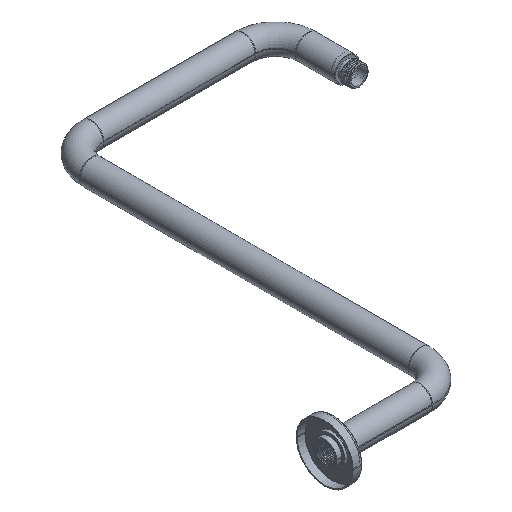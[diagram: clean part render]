
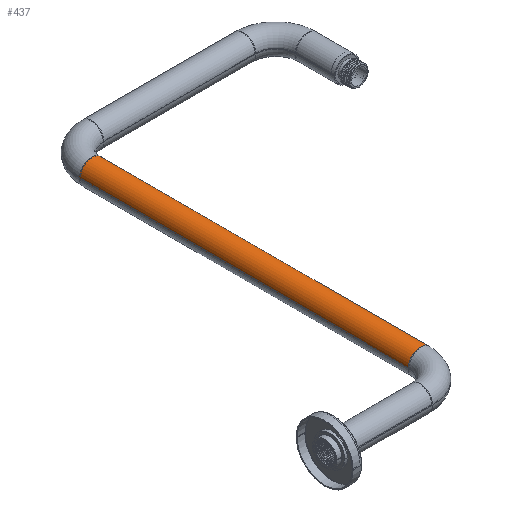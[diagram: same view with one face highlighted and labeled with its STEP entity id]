
A CAD part, isometric view. The second image highlights one B-rep face of the part: STEP entity #437.
In plain terms, the highlighted cylindrical face has radius 12.5 mm (diameter 25 mm), a partial arc.
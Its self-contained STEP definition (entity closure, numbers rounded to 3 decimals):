
#49=CARTESIAN_POINT('',(160.38,32.5,0.));
#50=DIRECTION('',(0.,1.,0.));
#51=DIRECTION('',(-1.,0.,0.));
#52=AXIS2_PLACEMENT_3D('',#49,#50,#51);
#54=DIRECTION('',(0.,1.,0.));
#55=VECTOR('',#54,335.);
#56=CARTESIAN_POINT('',(147.88,32.5,0.));
#57=LINE('',#56,#55);
#63=DIRECTION('',(0.,1.,0.));
#64=VECTOR('',#63,335.);
#65=CARTESIAN_POINT('',(172.88,32.5,0.));
#66=LINE('',#65,#64);
#77=CARTESIAN_POINT('',(160.38,367.5,0.));
#78=DIRECTION('',(0.,1.,0.));
#79=DIRECTION('',(-1.,0.,0.));
#80=AXIS2_PLACEMENT_3D('',#77,#78,#79);
#293=CARTESIAN_POINT('',(147.88,32.5,0.));
#294=CARTESIAN_POINT('',(172.88,32.5,0.));
#295=VERTEX_POINT('',#293);
#296=VERTEX_POINT('',#294);
#297=CARTESIAN_POINT('',(147.88,367.5,0.));
#298=CARTESIAN_POINT('',(172.88,367.5,0.));
#299=VERTEX_POINT('',#297);
#300=VERTEX_POINT('',#298);
#423=CARTESIAN_POINT('',(160.38,32.5,0.));
#424=DIRECTION('',(0.,1.,0.));
#425=DIRECTION('',(-1.,0.,0.));
#426=AXIS2_PLACEMENT_3D('',#423,#424,#425);
#427=CYLINDRICAL_SURFACE('',#426,12.5);
#428=ORIENTED_EDGE('',*,*,#417,.F.);
#430=ORIENTED_EDGE('',*,*,#429,.T.);
#432=ORIENTED_EDGE('',*,*,#431,.T.);
#434=ORIENTED_EDGE('',*,*,#433,.F.);
#435=EDGE_LOOP('',(#428,#430,#432,#434));
#436=FACE_OUTER_BOUND('',#435,.F.);
#53=CIRCLE('',#52,12.5);
#81=CIRCLE('',#80,12.5);
#417=EDGE_CURVE('',#295,#296,#53,.T.);
#429=EDGE_CURVE('',#295,#299,#57,.T.);
#431=EDGE_CURVE('',#299,#300,#81,.T.);
#433=EDGE_CURVE('',#296,#300,#66,.T.);
#437=ADVANCED_FACE('',(#436),#427,.T.);
